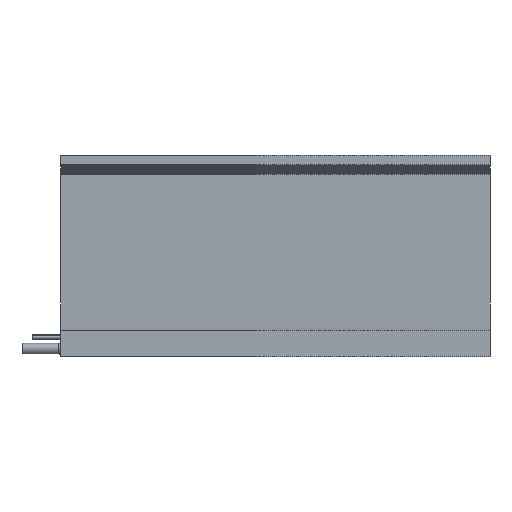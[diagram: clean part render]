
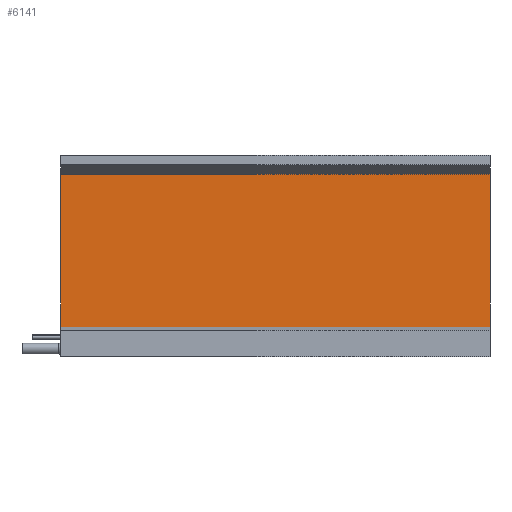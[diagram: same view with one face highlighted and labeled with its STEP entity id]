
A CAD part, left-side view. The second image highlights one B-rep face of the part: STEP entity #6141.
In plain terms, the highlighted planar face has unit normal (-1, 0, 0) as drawn and (1, 0, 0) by its records, which use the part's own axes.
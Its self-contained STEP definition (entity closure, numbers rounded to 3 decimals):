
#75 = LINE ( 'NONE', #5847, #649 ) ;
#338 = DIRECTION ( 'NONE',  ( 0., 1., 0. ) ) ;
#628 = CARTESIAN_POINT ( 'NONE',  ( 21.35, 154.11, 385. ) ) ;
#649 = VECTOR ( 'NONE', #3190, 1000. ) ;
#674 = VERTEX_POINT ( 'NONE', #4331 ) ;
#770 = EDGE_CURVE ( 'NONE', #674, #3822, #6074, .T. ) ;
#1057 = DIRECTION ( 'NONE',  ( -1., 0., 0. ) ) ;
#1066 = VECTOR ( 'NONE', #3965, 1000. ) ;
#1141 = VERTEX_POINT ( 'NONE', #628 ) ;
#1351 = EDGE_CURVE ( 'NONE', #2338, #1141, #1392, .T. ) ;
#1392 = LINE ( 'NONE', #3509, #2548 ) ;
#1792 = DIRECTION ( 'NONE',  ( 0., 1., 0. ) ) ;
#1828 = CARTESIAN_POINT ( 'NONE',  ( 21.35, 17.11, 385. ) ) ;
#2278 = PLANE ( 'NONE',  #5676 ) ;
#2338 = VERTEX_POINT ( 'NONE', #1828 ) ;
#2447 = ORIENTED_EDGE ( 'NONE', *, *, #770, .T. ) ;
#2548 = VECTOR ( 'NONE', #338, 1000. ) ;
#2688 = FACE_OUTER_BOUND ( 'NONE', #6279, .T. ) ;
#2821 = EDGE_CURVE ( 'NONE', #2338, #674, #4069, .T. ) ;
#2914 = CARTESIAN_POINT ( 'NONE',  ( 21.35, 17.11, 385. ) ) ;
#3135 = VECTOR ( 'NONE', #1792, 1000. ) ;
#3190 = DIRECTION ( 'NONE',  ( 0., 0., -1. ) ) ;
#3509 = CARTESIAN_POINT ( 'NONE',  ( 21.35, 17.11, 385. ) ) ;
#3781 = DIRECTION ( 'NONE',  ( 0., 0., 1. ) ) ;
#3822 = VERTEX_POINT ( 'NONE', #6913 ) ;
#3965 = DIRECTION ( 'NONE',  ( 0., 0., -1. ) ) ;
#4069 = LINE ( 'NONE', #2914, #1066 ) ;
#4331 = CARTESIAN_POINT ( 'NONE',  ( 21.35, 17.11, 0. ) ) ;
#4441 = CARTESIAN_POINT ( 'NONE',  ( 21.35, 17.11, 0. ) ) ;
#4932 = CARTESIAN_POINT ( 'NONE',  ( 21.35, 17.11, 385. ) ) ;
#5676 = AXIS2_PLACEMENT_3D ( 'NONE', #4932, #1057, #3781 ) ;
#5847 = CARTESIAN_POINT ( 'NONE',  ( 21.35, 154.11, 385. ) ) ;
#6018 = EDGE_CURVE ( 'NONE', #1141, #3822, #75, .T. ) ;
#6024 = ORIENTED_EDGE ( 'NONE', *, *, #6018, .F. ) ;
#6026 = ORIENTED_EDGE ( 'NONE', *, *, #2821, .T. ) ;
#6074 = LINE ( 'NONE', #4441, #3135 ) ;
#6141 = ADVANCED_FACE ( 'NONE', ( #2688 ), #2278, .F. ) ;
#6279 = EDGE_LOOP ( 'NONE', ( #2447, #6024, #6490, #6026 ) ) ;
#6490 = ORIENTED_EDGE ( 'NONE', *, *, #1351, .F. ) ;
#6913 = CARTESIAN_POINT ( 'NONE',  ( 21.35, 154.11, 0. ) ) ;
